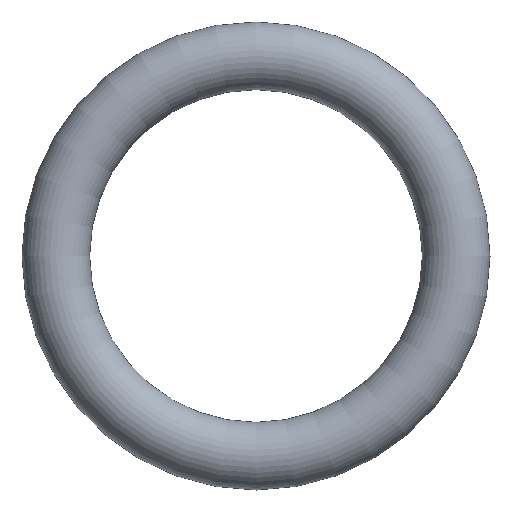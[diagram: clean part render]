
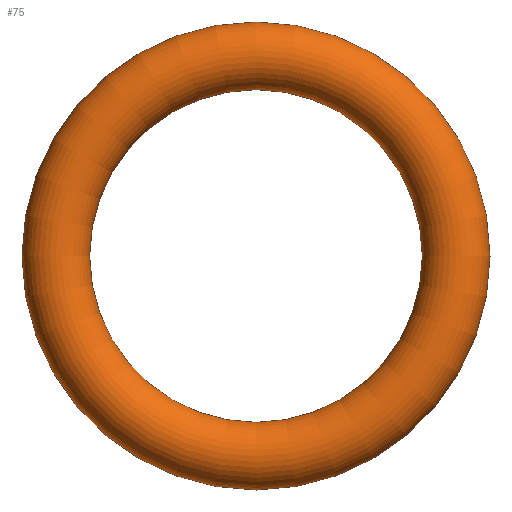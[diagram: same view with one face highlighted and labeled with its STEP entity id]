
A CAD part, front view. The second image highlights one B-rep face of the part: STEP entity #75.
In plain terms, the highlighted toroidal (fillet/blend) face has major radius 7.1 mm and minor radius 1.2 mm.
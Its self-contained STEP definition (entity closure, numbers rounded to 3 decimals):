
#75 = ADVANCED_FACE( '', ( #77 ), #78, .T. );
#77 = FACE_BOUND( '', #79, .T. );
#78 = TOROIDAL_SURFACE( '', #80, 7.1, 1.2 );
#79 = VERTEX_LOOP( '', #81 );
#80 = AXIS2_PLACEMENT_3D( '', #82, #83, #84 );
#81 = VERTEX_POINT( '', #85 );
#82 = CARTESIAN_POINT( '', ( 0., 0., 0. ) );
#83 = DIRECTION( '', ( 0., -1., 0. ) );
#84 = DIRECTION( '', ( 0., 0., -1. ) );
#85 = CARTESIAN_POINT( '', ( 0., 0., -8.3 ) );
